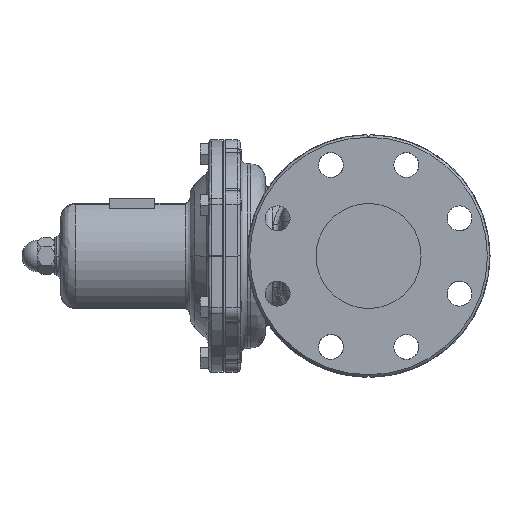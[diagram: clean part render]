
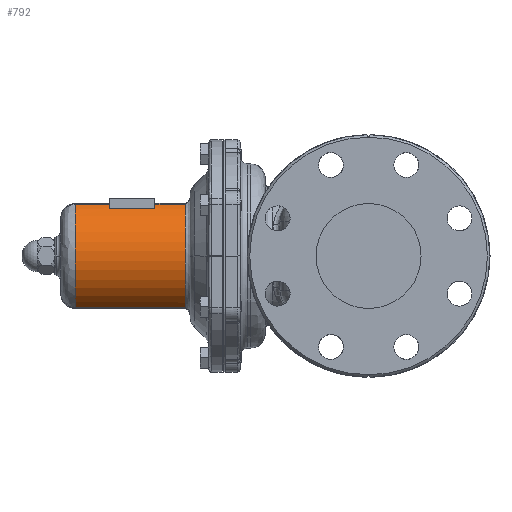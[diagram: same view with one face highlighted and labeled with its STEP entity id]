
A CAD part, left-side view. The second image highlights one B-rep face of the part: STEP entity #792.
In plain terms, the highlighted cylindrical face has radius 45 mm (diameter 90 mm), a partial arc.
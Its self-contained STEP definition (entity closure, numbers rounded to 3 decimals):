
#792=ADVANCED_FACE('',(#6266),#6265,.T.);
#6265=CYLINDRICAL_SURFACE('',#19702,45.);
#6266=FACE_OUTER_BOUND('',#19703,.T.);
#19699=CARTESIAN_POINT('',(0.,0.,0.));
#19700=DIRECTION('',(0.,0.,1.));
#19701=DIRECTION('',(1.,0.,0.));
#19702=AXIS2_PLACEMENT_3D('',#19699,#19700,#19701);
#19703=EDGE_LOOP('',(#24022,#24023,#24024,#24025,#24026,#24027,#24028,#24029,#24030,#24031,#24032,#24033));
#24022=ORIENTED_EDGE('',*,*,#26184,.F.);
#24023=ORIENTED_EDGE('',*,*,#26185,.T.);
#24024=ORIENTED_EDGE('',*,*,#26148,.T.);
#24025=ORIENTED_EDGE('',*,*,#26144,.T.);
#24026=ORIENTED_EDGE('',*,*,#26186,.T.);
#24027=ORIENTED_EDGE('',*,*,#26172,.T.);
#24028=ORIENTED_EDGE('',*,*,#26182,.T.);
#24029=ORIENTED_EDGE('',*,*,#26187,.T.);
#24030=ORIENTED_EDGE('',*,*,#26163,.T.);
#24031=ORIENTED_EDGE('',*,*,#26188,.T.);
#24032=ORIENTED_EDGE('',*,*,#26189,.F.);
#24033=ORIENTED_EDGE('',*,*,#26190,.F.);
#26144=EDGE_CURVE('',#34437,#34430,#34438,.T.);
#26148=EDGE_CURVE('',#34450,#34437,#34463,.T.);
#26163=EDGE_CURVE('',#34564,#34557,#34565,.T.);
#26172=EDGE_CURVE('',#34625,#34626,#34627,.T.);
#26182=EDGE_CURVE('',#34626,#34577,#34691,.T.);
#26184=EDGE_CURVE('',#34703,#34704,#34705,.T.);
#26185=EDGE_CURVE('',#34703,#34450,#34711,.T.);
#26186=EDGE_CURVE('',#34430,#34625,#34717,.T.);
#26187=EDGE_CURVE('',#34577,#34564,#34723,.T.);
#26188=EDGE_CURVE('',#34557,#34729,#34730,.T.);
#26189=EDGE_CURVE('',#34736,#34729,#34737,.T.);
#26190=EDGE_CURVE('',#34704,#34736,#34743,.T.);
#34430=VERTEX_POINT('',#47665);
#34437=VERTEX_POINT('',#47690);
#34438=CIRCLE('',#47694,45.);
#34450=VERTEX_POINT('',#47719);
#34463=(BOUNDED_CURVE() B_SPLINE_CURVE(3,(#47728,#47729,#47730,#47731),.UNSPECIFIED.,.F.,.F.) B_SPLINE_CURVE_WITH_KNOTS((4,4),(0.,0.),.UNSPECIFIED.) CURVE() GEOMETRIC_REPRESENTATION_ITEM() RATIONAL_B_SPLINE_CURVE((1.,1.,1.,1.)) REPRESENTATION_ITEM('') );
#34557=VERTEX_POINT('',#47879);
#34564=VERTEX_POINT('',#47884);
#34565=(BOUNDED_CURVE() B_SPLINE_CURVE(3,(#47885,#47886,#47887,#47888),.UNSPECIFIED.,.F.,.F.) B_SPLINE_CURVE_WITH_KNOTS((4,4),(0.,0.002),.UNSPECIFIED.) CURVE() GEOMETRIC_REPRESENTATION_ITEM() RATIONAL_B_SPLINE_CURVE((1.,1.,1.,1.)) REPRESENTATION_ITEM('') );
#34577=VERTEX_POINT('',#47893);
#34625=VERTEX_POINT('',#47981);
#34626=VERTEX_POINT('',#47982);
#34627=LINE('',#47983,#47984);
#34691=(BOUNDED_CURVE() B_SPLINE_CURVE(3,(#48057,#48058,#48059,#48060,#48061,#48062),.UNSPECIFIED.,.F.,.F.) B_SPLINE_CURVE_WITH_KNOTS((4,2,4),(0.,0.001,0.002),.UNSPECIFIED.) CURVE() GEOMETRIC_REPRESENTATION_ITEM() RATIONAL_B_SPLINE_CURVE((1.,1.,1.,1.,1.,1.)) REPRESENTATION_ITEM('') );
#34703=VERTEX_POINT('',#48069);
#34704=VERTEX_POINT('',#48070);
#34705=CIRCLE('',#48074,45.);
#34711=LINE('',#48075,#48076);
#34717=(BOUNDED_CURVE() B_SPLINE_CURVE(3,(#48078,#48079,#48080,#48081),.UNSPECIFIED.,.F.,.F.) B_SPLINE_CURVE_WITH_KNOTS((4,4),(0.,0.),.UNSPECIFIED.) CURVE() GEOMETRIC_REPRESENTATION_ITEM() RATIONAL_B_SPLINE_CURVE((1.,1.,1.,1.)) REPRESENTATION_ITEM('') );
#34723=CIRCLE('',#48085,45.);
#34729=VERTEX_POINT('',#48086);
#34730=LINE('',#48087,#48088);
#34736=VERTEX_POINT('',#48090);
#34737=CIRCLE('',#48094,45.);
#34743=LINE('',#48095,#48096);
#47665=CARTESIAN_POINT('',(-21.786,39.375,112.877));
#47690=CARTESIAN_POINT('',(-21.786,-39.375,112.877));
#47691=CARTESIAN_POINT('',(0.,0.,112.877));
#47692=DIRECTION('',(0.,0.,-1.));
#47693=DIRECTION('',(-0.484,0.875,0.));
#47694=AXIS2_PLACEMENT_3D('',#47691,#47692,#47693);
#47719=CARTESIAN_POINT('',(-21.786,-39.375,112.847));
#47728=CARTESIAN_POINT('',(-21.786,-39.375,112.847));
#47729=CARTESIAN_POINT('',(-21.786,-39.375,112.857));
#47730=CARTESIAN_POINT('',(-21.786,-39.375,112.867));
#47731=CARTESIAN_POINT('',(-21.786,-39.375,112.877));
#47879=CARTESIAN_POINT('',(-21.786,-39.375,30.5));
#47884=CARTESIAN_POINT('',(-21.554,-39.502,29.));
#47885=CARTESIAN_POINT('',(-21.554,-39.502,29.));
#47886=CARTESIAN_POINT('',(-21.706,-39.419,29.486));
#47887=CARTESIAN_POINT('',(-21.786,-39.375,29.985));
#47888=CARTESIAN_POINT('',(-21.786,-39.375,30.5));
#47893=CARTESIAN_POINT('',(-21.554,39.502,29.));
#47981=CARTESIAN_POINT('',(-21.786,39.375,112.847));
#47982=CARTESIAN_POINT('',(-21.786,39.375,30.5));
#47983=CARTESIAN_POINT('',(-21.786,39.375,112.847));
#47984=VECTOR('',#47985,82.347);
#47985=DIRECTION('',(0.,0.,-1.));
#48057=CARTESIAN_POINT('',(-21.786,39.375,30.5));
#48058=CARTESIAN_POINT('',(-21.786,39.375,30.244));
#48059=CARTESIAN_POINT('',(-21.765,39.386,29.988));
#48060=CARTESIAN_POINT('',(-21.687,39.429,29.487));
#48061=CARTESIAN_POINT('',(-21.629,39.461,29.241));
#48062=CARTESIAN_POINT('',(-21.554,39.502,29.));
#48069=CARTESIAN_POINT('',(-21.786,-39.375,86.75));
#48070=CARTESIAN_POINT('',(-26.5,-36.37,86.75));
#48071=CARTESIAN_POINT('',(0.,0.,86.75));
#48072=DIRECTION('',(0.,0.,-1.));
#48073=DIRECTION('',(1.,0.,0.));
#48074=AXIS2_PLACEMENT_3D('',#48071,#48072,#48073);
#48075=CARTESIAN_POINT('',(-21.786,-39.375,86.75));
#48076=VECTOR('',#48077,26.097);
#48077=DIRECTION('',(0.,0.,1.));
#48078=CARTESIAN_POINT('',(-21.786,39.375,112.877));
#48079=CARTESIAN_POINT('',(-21.786,39.375,112.867));
#48080=CARTESIAN_POINT('',(-21.786,39.375,112.857));
#48081=CARTESIAN_POINT('',(-21.786,39.375,112.847));
#48082=CARTESIAN_POINT('',(0.,0.,29.));
#48083=DIRECTION('',(0.,0.,1.));
#48084=DIRECTION('',(1.,0.,0.));
#48085=AXIS2_PLACEMENT_3D('',#48082,#48083,#48084);
#48086=CARTESIAN_POINT('',(-21.786,-39.375,52.25));
#48087=CARTESIAN_POINT('',(-21.786,-39.375,30.5));
#48088=VECTOR('',#48089,21.75);
#48089=DIRECTION('',(0.,0.,1.));
#48090=CARTESIAN_POINT('',(-26.5,-36.37,52.25));
#48091=CARTESIAN_POINT('',(0.,0.,52.25));
#48092=DIRECTION('',(0.,0.,1.));
#48093=DIRECTION('',(-1.,0.,0.));
#48094=AXIS2_PLACEMENT_3D('',#48091,#48092,#48093);
#48095=CARTESIAN_POINT('',(-26.5,-36.37,86.75));
#48096=VECTOR('',#48097,34.5);
#48097=DIRECTION('',(0.,0.,-1.));
